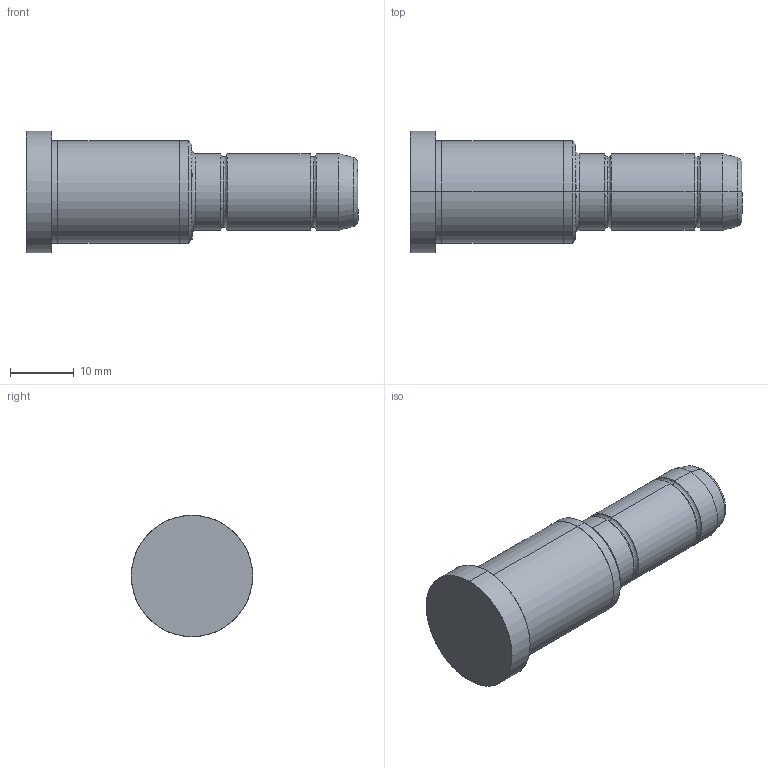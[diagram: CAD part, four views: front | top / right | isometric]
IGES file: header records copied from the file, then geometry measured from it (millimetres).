
Start section: SolidWorks IGES file using analytic representation for surfaces
Global section: file name: C:\Documents and Settings\kalite-mail\Desktop\IGS\D02\12\D02 - 12x26x26.IGS; native system: SolidWorks 2008; preprocessor: SolidWorks 2008; author: kalite-mail; date: 080616.134909; units: millimetre
Bounding box: 52 x 19 x 19 mm (x, y, z)
Surface area: 2868 mm2 (no closed solid volume)
Topology: 0 solids, 0 shells, 36 faces, 440 edges, 440 vertices
Faces by surface type: bspline 18, revolution 18
